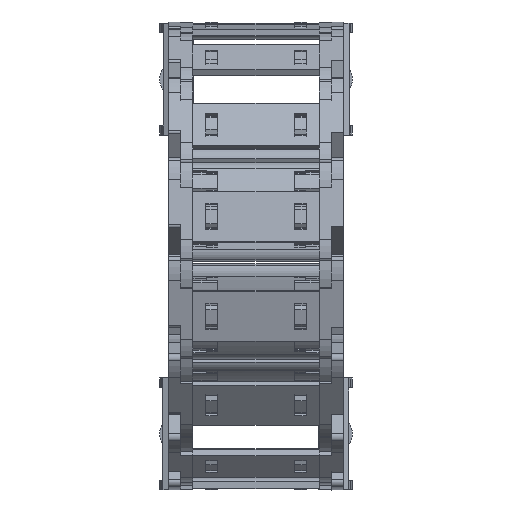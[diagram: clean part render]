
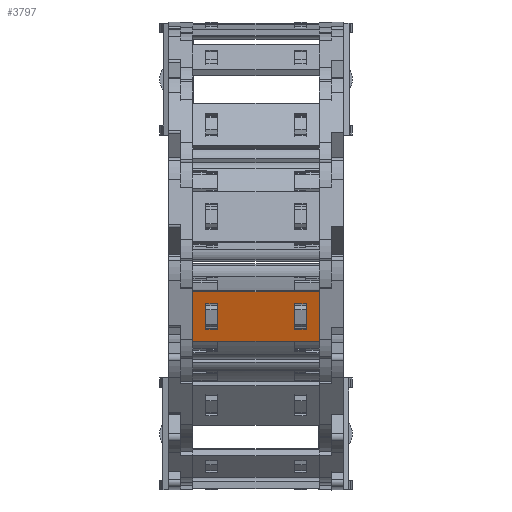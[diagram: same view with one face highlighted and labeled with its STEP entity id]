
A CAD part, top view. The second image highlights one B-rep face of the part: STEP entity #3797.
In plain terms, the highlighted planar face has unit normal (0, -0.259, 0.966) as drawn and (0, 1, 0) by its records, which use the part's own axes.
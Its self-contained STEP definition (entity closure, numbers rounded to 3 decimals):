
#2923=DIRECTION('',(0.,0.,1.));
#2924=VECTOR('',#2923,15.8);
#2925=CARTESIAN_POINT('',(24.24,1.5,-7.9));
#2926=LINE('',#2925,#2924);
#2930=DIRECTION('',(-1.,0.,0.));
#2931=VECTOR('',#2930,39.);
#2932=CARTESIAN_POINT('',(24.24,1.5,7.9));
#2933=LINE('',#2932,#2931);
#2937=DIRECTION('',(0.,0.,-1.));
#2938=VECTOR('',#2937,15.8);
#2939=CARTESIAN_POINT('',(-14.76,1.5,7.9));
#2940=LINE('',#2939,#2938);
#2944=DIRECTION('',(1.,0.,0.));
#2945=VECTOR('',#2944,3.648);
#2946=CARTESIAN_POINT('',(16.622,1.5,4.075));
#2947=LINE('',#2946,#2945);
#2951=DIRECTION('',(0.,0.,-1.));
#2952=VECTOR('',#2951,8.15);
#2953=CARTESIAN_POINT('',(20.27,1.5,4.075));
#2954=LINE('',#2953,#2952);
#2958=DIRECTION('',(-1.,0.,0.));
#2959=VECTOR('',#2958,3.648);
#2960=CARTESIAN_POINT('',(20.27,1.5,-4.075));
#2961=LINE('',#2960,#2959);
#2965=DIRECTION('',(0.,0.,-1.));
#2966=VECTOR('',#2965,8.15);
#2967=CARTESIAN_POINT('',(-7.142,1.5,4.075));
#2968=LINE('',#2967,#2966);
#2972=DIRECTION('',(-1.,0.,0.));
#2973=VECTOR('',#2972,3.648);
#2974=CARTESIAN_POINT('',(-7.142,1.5,-4.075));
#2975=LINE('',#2974,#2973);
#2979=DIRECTION('',(0.,0.,1.));
#2980=VECTOR('',#2979,8.15);
#2981=CARTESIAN_POINT('',(-10.79,1.5,-4.075));
#2982=LINE('',#2981,#2980);
#2986=DIRECTION('',(1.,0.,0.));
#2987=VECTOR('',#2986,3.648);
#2988=CARTESIAN_POINT('',(-10.79,1.5,4.075));
#2989=LINE('',#2988,#2987);
#3000=DIRECTION('',(-1.,0.,0.));
#3001=VECTOR('',#3000,39.);
#3002=CARTESIAN_POINT('',(24.24,1.5,-7.9));
#3003=LINE('',#3002,#3001);
#3208=DIRECTION('',(0.,0.,-1.));
#3209=VECTOR('',#3208,8.15);
#3210=CARTESIAN_POINT('',(16.622,1.5,4.075));
#3211=LINE('',#3210,#3209);
#3507=CARTESIAN_POINT('',(20.27,1.5,4.075));
#3508=VERTEX_POINT('',#3507);
#3509=CARTESIAN_POINT('',(16.622,1.5,4.075));
#3510=VERTEX_POINT('',#3509);
#3551=CARTESIAN_POINT('',(16.622,1.5,-4.075));
#3552=VERTEX_POINT('',#3551);
#3553=CARTESIAN_POINT('',(20.27,1.5,-4.075));
#3554=VERTEX_POINT('',#3553);
#3555=CARTESIAN_POINT('',(24.24,1.5,7.9));
#3557=VERTEX_POINT('',#3555);
#3559=CARTESIAN_POINT('',(24.24,1.5,-7.9));
#3560=VERTEX_POINT('',#3559);
#3583=CARTESIAN_POINT('',(-7.142,1.5,4.075));
#3584=CARTESIAN_POINT('',(-7.142,1.5,-4.075));
#3585=VERTEX_POINT('',#3583);
#3586=VERTEX_POINT('',#3584);
#3587=CARTESIAN_POINT('',(-10.79,1.5,-4.075));
#3588=VERTEX_POINT('',#3587);
#3589=CARTESIAN_POINT('',(-10.79,1.5,4.075));
#3590=VERTEX_POINT('',#3589);
#3591=CARTESIAN_POINT('',(-14.76,1.5,7.9));
#3592=VERTEX_POINT('',#3591);
#3595=CARTESIAN_POINT('',(-14.76,1.5,-7.9));
#3596=VERTEX_POINT('',#3595);
#3766=CARTESIAN_POINT('',(55.98,1.5,10.061));
#3767=DIRECTION('',(0.,-1.,0.));
#3768=DIRECTION('',(0.,0.,-1.));
#3769=AXIS2_PLACEMENT_3D('',#3766,#3767,#3768);
#3770=PLANE('',#3769);
#3771=ORIENTED_EDGE('',*,*,#3669,.T.);
#3772=ORIENTED_EDGE('',*,*,#3707,.T.);
#3773=ORIENTED_EDGE('',*,*,#3732,.T.);
#3775=ORIENTED_EDGE('',*,*,#3774,.F.);
#3776=EDGE_LOOP('',(#3771,#3772,#3773,#3775));
#3777=FACE_OUTER_BOUND('',#3776,.F.);
#3779=ORIENTED_EDGE('',*,*,#3778,.F.);
#3780=ORIENTED_EDGE('',*,*,#3608,.T.);
#3782=ORIENTED_EDGE('',*,*,#3781,.T.);
#3784=ORIENTED_EDGE('',*,*,#3783,.T.);
#3785=EDGE_LOOP('',(#3779,#3780,#3782,#3784));
#3786=FACE_BOUND('',#3785,.F.);
#3788=ORIENTED_EDGE('',*,*,#3787,.T.);
#3790=ORIENTED_EDGE('',*,*,#3789,.T.);
#3792=ORIENTED_EDGE('',*,*,#3791,.T.);
#3794=ORIENTED_EDGE('',*,*,#3793,.T.);
#3795=EDGE_LOOP('',(#3788,#3790,#3792,#3794));
#3796=FACE_BOUND('',#3795,.F.);
#3797=ADVANCED_FACE('',(#3777,#3786,#3796),#3770,.F.);
#3608=EDGE_CURVE('',#3510,#3508,#2947,.T.);
#3669=EDGE_CURVE('',#3560,#3557,#2926,.T.);
#3707=EDGE_CURVE('',#3557,#3592,#2933,.T.);
#3732=EDGE_CURVE('',#3592,#3596,#2940,.T.);
#3774=EDGE_CURVE('',#3560,#3596,#3003,.T.);
#3778=EDGE_CURVE('',#3510,#3552,#3211,.T.);
#3781=EDGE_CURVE('',#3508,#3554,#2954,.T.);
#3783=EDGE_CURVE('',#3554,#3552,#2961,.T.);
#3787=EDGE_CURVE('',#3585,#3586,#2968,.T.);
#3789=EDGE_CURVE('',#3586,#3588,#2975,.T.);
#3791=EDGE_CURVE('',#3588,#3590,#2982,.T.);
#3793=EDGE_CURVE('',#3590,#3585,#2989,.T.);
